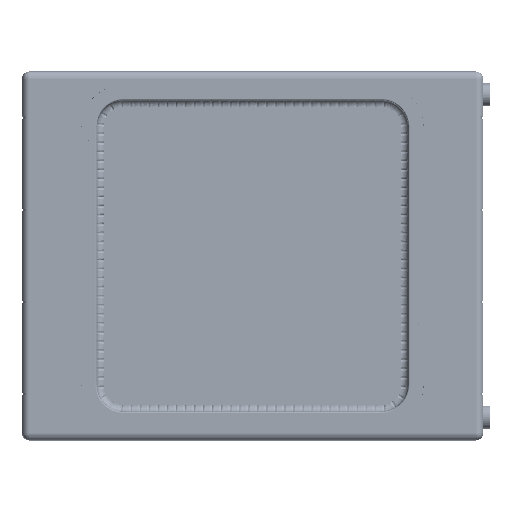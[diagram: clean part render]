
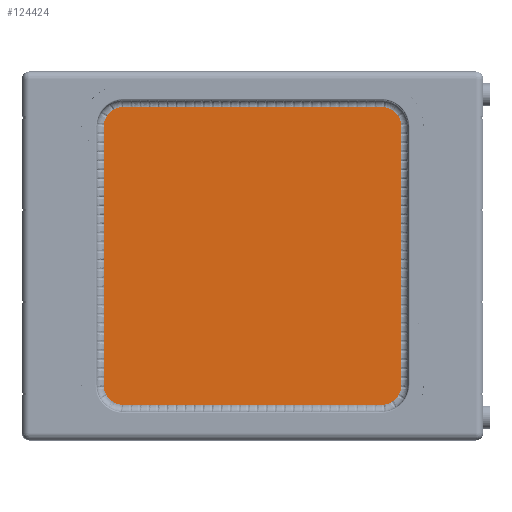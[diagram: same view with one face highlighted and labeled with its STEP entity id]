
A CAD part, top view. The second image highlights one B-rep face of the part: STEP entity #124424.
In plain terms, the highlighted planar face has unit normal (0, 0, 1).
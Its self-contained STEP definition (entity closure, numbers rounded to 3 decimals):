
#14040=FACE_OUTER_BOUND('',#21703,.T.);
#21703=EDGE_LOOP('',(#104972,#104973,#104974,#104975,#104976,#104977,#104978,
#104979));
#31390=LINE('',#754118,#42022);
#31393=LINE('',#754126,#42025);
#31396=LINE('',#754134,#42028);
#31399=LINE('',#754141,#42031);
#42022=VECTOR('',#156262,560.);
#42025=VECTOR('',#156271,560.);
#42028=VECTOR('',#156280,560.);
#42031=VECTOR('',#156289,560.);
#47857=CIRCLE('',#133131,43.);
#47858=CIRCLE('',#133134,43.);
#47859=CIRCLE('',#133137,43.);
#47860=CIRCLE('',#133140,43.);
#57321=VERTEX_POINT('',#754111);
#57322=VERTEX_POINT('',#754113);
#57323=VERTEX_POINT('',#754117);
#57324=VERTEX_POINT('',#754121);
#57325=VERTEX_POINT('',#754125);
#57326=VERTEX_POINT('',#754129);
#57327=VERTEX_POINT('',#754133);
#57328=VERTEX_POINT('',#754137);
#73781=EDGE_CURVE('',#57322,#57321,#47857,.T.);
#73783=EDGE_CURVE('',#57323,#57322,#31390,.T.);
#73785=EDGE_CURVE('',#57324,#57323,#47858,.T.);
#73787=EDGE_CURVE('',#57325,#57324,#31393,.T.);
#73789=EDGE_CURVE('',#57326,#57325,#47859,.T.);
#73791=EDGE_CURVE('',#57327,#57326,#31396,.T.);
#73793=EDGE_CURVE('',#57328,#57327,#47860,.T.);
#73795=EDGE_CURVE('',#57321,#57328,#31399,.T.);
#104972=ORIENTED_EDGE('',*,*,#73781,.T.);
#104973=ORIENTED_EDGE('',*,*,#73795,.T.);
#104974=ORIENTED_EDGE('',*,*,#73793,.T.);
#104975=ORIENTED_EDGE('',*,*,#73791,.T.);
#104976=ORIENTED_EDGE('',*,*,#73789,.T.);
#104977=ORIENTED_EDGE('',*,*,#73787,.T.);
#104978=ORIENTED_EDGE('',*,*,#73785,.T.);
#104979=ORIENTED_EDGE('',*,*,#73783,.T.);
#117790=PLANE('',#133142);
#124424=ADVANCED_FACE('',(#14040),#117790,.T.);
#133131=AXIS2_PLACEMENT_3D('',#754114,#156257,#156258);
#133134=AXIS2_PLACEMENT_3D('',#754122,#156266,#156267);
#133137=AXIS2_PLACEMENT_3D('',#754130,#156275,#156276);
#133140=AXIS2_PLACEMENT_3D('',#754138,#156284,#156285);
#133142=AXIS2_PLACEMENT_3D('',#754142,#156290,#156291);
#156257=DIRECTION('center_axis',(0.,0.,1.));
#156258=DIRECTION('ref_axis',(1.,0.,0.));
#156262=DIRECTION('',(0.,1.,0.));
#156266=DIRECTION('center_axis',(0.,0.,1.));
#156267=DIRECTION('ref_axis',(0.,-1.,0.));
#156271=DIRECTION('',(1.,0.,0.));
#156275=DIRECTION('center_axis',(0.,0.,1.));
#156276=DIRECTION('ref_axis',(-1.,0.,0.));
#156280=DIRECTION('',(0.,-1.,0.));
#156284=DIRECTION('center_axis',(0.,0.,1.));
#156285=DIRECTION('ref_axis',(0.,1.,0.));
#156289=DIRECTION('',(-1.,0.,0.));
#156290=DIRECTION('center_axis',(0.,0.,1.));
#156291=DIRECTION('ref_axis',(1.,0.,0.));
#754111=CARTESIAN_POINT('',(280.,323.,5.));
#754113=CARTESIAN_POINT('',(323.,280.,5.));
#754114=CARTESIAN_POINT('Origin',(280.,280.,5.));
#754117=CARTESIAN_POINT('',(323.,-280.,5.));
#754118=CARTESIAN_POINT('',(323.,-280.,5.));
#754121=CARTESIAN_POINT('',(280.,-323.,5.));
#754122=CARTESIAN_POINT('Origin',(280.,-280.,5.));
#754125=CARTESIAN_POINT('',(-280.,-323.,5.));
#754126=CARTESIAN_POINT('',(-280.,-323.,5.));
#754129=CARTESIAN_POINT('',(-323.,-280.,5.));
#754130=CARTESIAN_POINT('Origin',(-280.,-280.,5.));
#754133=CARTESIAN_POINT('',(-323.,280.,5.));
#754134=CARTESIAN_POINT('',(-323.,280.,5.));
#754137=CARTESIAN_POINT('',(-280.,323.,5.));
#754138=CARTESIAN_POINT('Origin',(-280.,280.,5.));
#754141=CARTESIAN_POINT('',(280.,323.,5.));
#754142=CARTESIAN_POINT('Origin',(0.,0.,5.));
